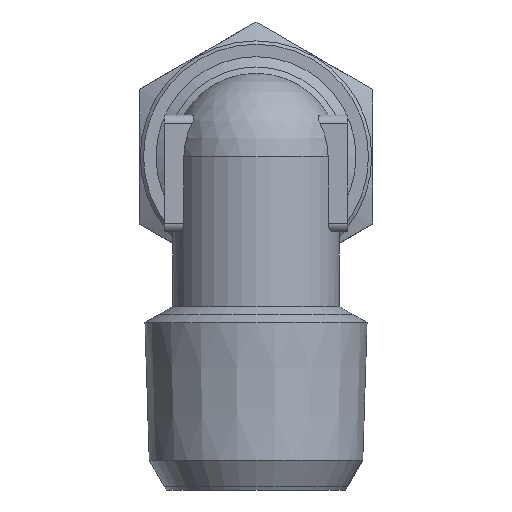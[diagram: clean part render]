
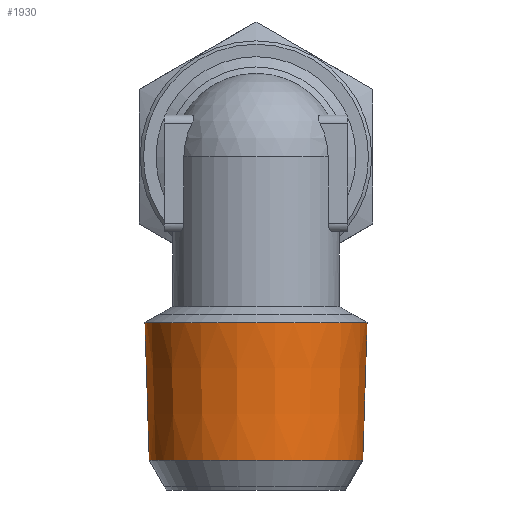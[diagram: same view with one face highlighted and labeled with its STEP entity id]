
A CAD part, left-side view. The second image highlights one B-rep face of the part: STEP entity #1930.
In plain terms, the highlighted conical face has half-angle 1.79 degrees and reference radius 6.664 mm.
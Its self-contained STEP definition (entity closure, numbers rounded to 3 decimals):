
#1930=ADVANCED_FACE('', (#1940,#1950), #1960, .T.);
#7480=AXIS2_PLACEMENT_3D('Ax2Pl3d', #7490, #7500, #7510);
#7520=AXIS2_PLACEMENT_3D('Ax2Pl3d', #7530, #7540, #7550);
#7560=AXIS2_PLACEMENT_3D('Ax2Pl3d', #7570, #7580, #7590);
#7490=CARTESIAN_POINT('HicPkt', (9.018,10.309,
15.367));
#7530=CARTESIAN_POINT('HicPkt', (9.018,10.309,
15.367));
#31450=CARTESIAN_POINT('', (9.018,3.645,15.367));
#7570=CARTESIAN_POINT('HicPkt', (9.018,10.309,
7.128));
#31460=CARTESIAN_POINT('', (9.018,3.903,7.128));
#32320=CIRCLE('Circle', #7520, 6.664);
#32330=CIRCLE('Circle', #7560, 6.407);
#1960=CONICAL_SURFACE('Kegel', #7480, 6.664, 
0.031);
#7500=DIRECTION('Axis', (0.,0.,1.));
#7510=DIRECTION('RefDirection', (1.,0.,-0.));
#7540=DIRECTION('Axis', (0.,0.,1.));
#7550=DIRECTION('RefDirection', (1.,0.,-0.));
#7580=DIRECTION('Axis', (0.,0.,-1.));
#7590=DIRECTION('RefDirection', (-1.,-0.,0.));
#40420=EDGE_CURVE('', #40430, #40430, #32320, .T.);
#40440=EDGE_CURVE('', #40450, #40450, #32330, .T.);
#44360=EDGE_LOOP('Edge_loop', (#44370));
#44380=EDGE_LOOP('Edge_loop', (#44390));
#1950=FACE_BOUND('', #44380, .T.);
#1940=FACE_OUTER_BOUND('Face_outer_bound', #44360, .T.);
#44370=ORIENTED_EDGE('', *, *, #40420, .F.);
#44390=ORIENTED_EDGE('', *, *, #40440, .F.);
#40430=VERTEX_POINT('', #31450);
#40450=VERTEX_POINT('', #31460);
